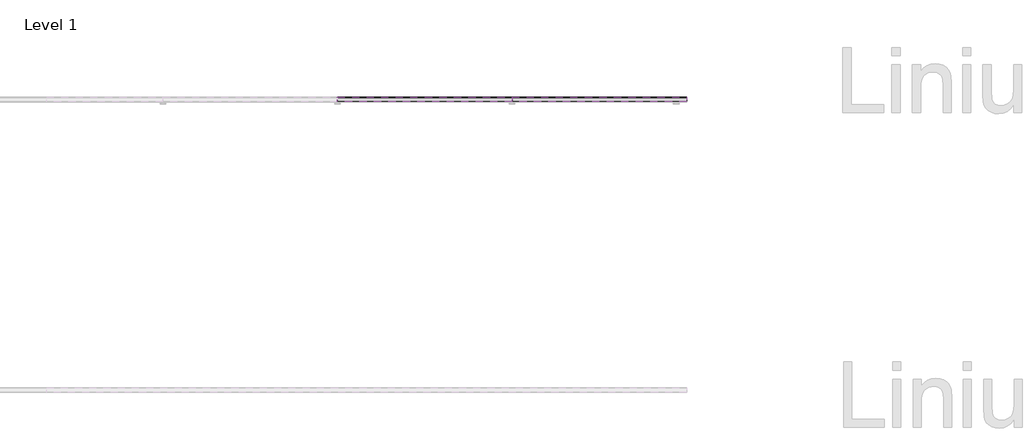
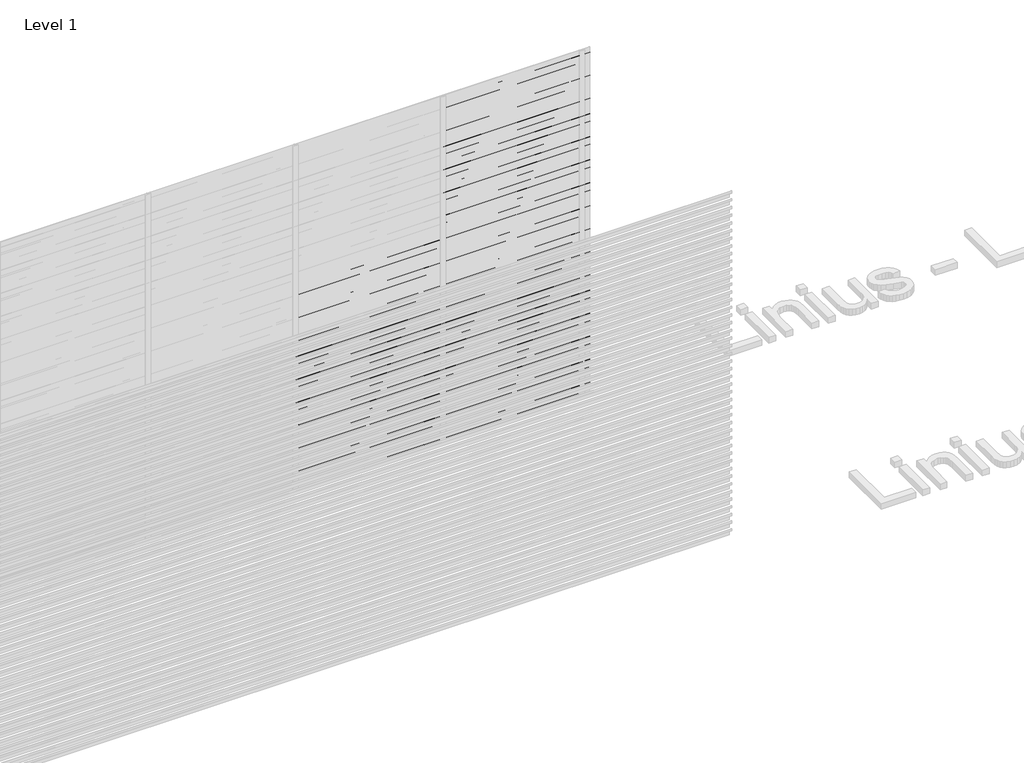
# One storey, part 101 of 540: 72 proxies.
"""IFC4 building model written with IfcOpenShell, lengths in millimetres."""

from ifc_helpers import new_model, si_unit, frame, origin, place, context, project, spatial, polyline, outline, extrude, element, save

model = new_model("IFC4")

# Units and contexts
model_context = context("Model", 3, world=origin())
ifc_project = project(units=[si_unit("LENGTHUNIT", "METRE", prefix="MILLI")], contexts=[model_context])

# Site, building, storey
site = spatial("IfcSite", under=ifc_project)
building = spatial("IfcBuilding", under=site)
storey = spatial("IfcBuildingStorey", under=building, Name="Level 1", Elevation=0.0)

# Proxies
placement = place(None, origin())
element("IfcBuildingElementProxy", 1, Name="Wall Sweeps", at=placement, inside=storey, context=model_context, shape_type="SweptSolid", body=[
    extrude(outline(polyline([(44014.0540136, 1742.0), (44014.0540136, 1709.0), (44012.8040136, 1709.7216933), (44012.8040136, 1741.2872415), (43983.0540136, 1762.0588647), (43983.0540136, 1782.0), (43984.3040136, 1782.0), (43984.3040136, 1762.7716232), (44014.0540136, 1742.0)])), frame((48566.6208097, 0.0, 0.0), z_axis=(1.0, 0.0, 0.0), x_axis=(0.0, 1.0, 0.0)), (0.0, 0.0, 1.0), 1200.0),
])
element("IfcBuildingElementProxy", 2, Name="Wall Sweeps", at=placement, inside=storey, context=model_context, shape_type="SweptSolid", body=[
    extrude(outline(polyline([(44014.0540136, 1676.0), (44014.0540136, 1643.0), (44012.8040136, 1643.7216933), (44012.8040136, 1675.2872415), (43983.0540136, 1696.0588647), (43983.0540136, 1716.0), (43984.3040136, 1716.0), (43984.3040136, 1696.7716232), (44014.0540136, 1676.0)])), frame((48566.6208097, 0.0, 0.0), z_axis=(1.0, 0.0, 0.0), x_axis=(0.0, 1.0, 0.0)), (0.0, 0.0, 1.0), 1200.0),
])
element("IfcBuildingElementProxy", 3, Name="Wall Sweeps", at=placement, inside=storey, context=model_context, shape_type="SweptSolid", body=[
    extrude(outline(polyline([(44014.0540136, 1610.0), (44014.0540136, 1577.0), (44012.8040136, 1577.7216933), (44012.8040136, 1609.2872415), (43983.0540136, 1630.0588647), (43983.0540136, 1650.0), (43984.3040136, 1650.0), (43984.3040136, 1630.7716232), (44014.0540136, 1610.0)])), frame((48566.6208097, 0.0, 0.0), z_axis=(1.0, 0.0, 0.0), x_axis=(0.0, 1.0, 0.0)), (0.0, 0.0, 1.0), 1200.0),
])
element("IfcBuildingElementProxy", 4, Name="Wall Sweeps", at=placement, inside=storey, context=model_context, shape_type="SweptSolid", body=[
    extrude(outline(polyline([(44014.0540136, 1544.0), (44014.0540136, 1511.0), (44012.8040136, 1511.7216933), (44012.8040136, 1543.2872415), (43983.0540136, 1564.0588647), (43983.0540136, 1584.0), (43984.3040136, 1584.0), (43984.3040136, 1564.7716232), (44014.0540136, 1544.0)])), frame((48566.6208097, 0.0, 0.0), z_axis=(1.0, 0.0, 0.0), x_axis=(0.0, 1.0, 0.0)), (0.0, 0.0, 1.0), 1200.0),
])
element("IfcBuildingElementProxy", 5, Name="Wall Sweeps", at=placement, inside=storey, context=model_context, shape_type="SweptSolid", body=[
    extrude(outline(polyline([(44014.0540136, 1478.0), (44014.0540136, 1445.0), (44012.8040136, 1445.7216933), (44012.8040136, 1477.2872415), (43983.0540136, 1498.0588647), (43983.0540136, 1518.0), (43984.3040136, 1518.0), (43984.3040136, 1498.7716232), (44014.0540136, 1478.0)])), frame((48566.6208097, 0.0, 0.0), z_axis=(1.0, 0.0, 0.0), x_axis=(0.0, 1.0, 0.0)), (0.0, 0.0, 1.0), 1200.0),
])
element("IfcBuildingElementProxy", 6, Name="Wall Sweeps", at=placement, inside=storey, context=model_context, shape_type="SweptSolid", body=[
    extrude(outline(polyline([(44014.0540136, 1412.0), (44014.0540136, 1379.0), (44012.8040136, 1379.7216933), (44012.8040136, 1411.2872415), (43983.0540136, 1432.0588647), (43983.0540136, 1452.0), (43984.3040136, 1452.0), (43984.3040136, 1432.7716232), (44014.0540136, 1412.0)])), frame((48566.6208097, 0.0, 0.0), z_axis=(1.0, 0.0, 0.0), x_axis=(0.0, 1.0, 0.0)), (0.0, 0.0, 1.0), 1200.0),
])
element("IfcBuildingElementProxy", 7, Name="Wall Sweeps", at=placement, inside=storey, context=model_context, shape_type="SweptSolid", body=[
    extrude(outline(polyline([(44014.0540136, 1346.0), (44014.0540136, 1313.0), (44012.8040136, 1313.7216933), (44012.8040136, 1345.2872415), (43983.0540136, 1366.0588647), (43983.0540136, 1386.0), (43984.3040136, 1386.0), (43984.3040136, 1366.7716232), (44014.0540136, 1346.0)])), frame((48566.6208097, 0.0, 0.0), z_axis=(1.0, 0.0, 0.0), x_axis=(0.0, 1.0, 0.0)), (0.0, 0.0, 1.0), 1200.0),
])
element("IfcBuildingElementProxy", 8, Name="Wall Sweeps", at=placement, inside=storey, context=model_context, shape_type="SweptSolid", body=[
    extrude(outline(polyline([(44014.0540136, 1280.0), (44014.0540136, 1247.0), (44012.8040136, 1247.7216933), (44012.8040136, 1279.2872415), (43983.0540136, 1300.0588647), (43983.0540136, 1320.0), (43984.3040136, 1320.0), (43984.3040136, 1300.7716232), (44014.0540136, 1280.0)])), frame((48566.6208097, 0.0, 0.0), z_axis=(1.0, 0.0, 0.0), x_axis=(0.0, 1.0, 0.0)), (0.0, 0.0, 1.0), 1200.0),
])
element("IfcBuildingElementProxy", 9, Name="Wall Sweeps", at=placement, inside=storey, context=model_context, shape_type="SweptSolid", body=[
    extrude(outline(polyline([(44014.0540136, 1214.0), (44014.0540136, 1181.0), (44012.8040136, 1181.7216933), (44012.8040136, 1213.2872415), (43983.0540136, 1234.0588647), (43983.0540136, 1254.0), (43984.3040136, 1254.0), (43984.3040136, 1234.7716232), (44014.0540136, 1214.0)])), frame((48566.6208097, 0.0, 0.0), z_axis=(1.0, 0.0, 0.0), x_axis=(0.0, 1.0, 0.0)), (0.0, 0.0, 1.0), 1200.0),
])
element("IfcBuildingElementProxy", 10, Name="Wall Sweeps", at=placement, inside=storey, context=model_context, shape_type="SweptSolid", body=[
    extrude(outline(polyline([(44014.0540136, 1148.0), (44014.0540136, 1115.0), (44012.8040136, 1115.7216933), (44012.8040136, 1147.2872415), (43983.0540136, 1168.0588647), (43983.0540136, 1188.0), (43984.3040136, 1188.0), (43984.3040136, 1168.7716232), (44014.0540136, 1148.0)])), frame((48566.6208097, 0.0, 0.0), z_axis=(1.0, 0.0, 0.0), x_axis=(0.0, 1.0, 0.0)), (0.0, 0.0, 1.0), 1200.0),
])
element("IfcBuildingElementProxy", 11, Name="Wall Sweeps", at=placement, inside=storey, context=model_context, shape_type="SweptSolid", body=[
    extrude(outline(polyline([(44014.0540136, 1082.0), (44014.0540136, 1049.0), (44012.8040136, 1049.7216933), (44012.8040136, 1081.2872415), (43983.0540136, 1102.0588647), (43983.0540136, 1122.0), (43984.3040136, 1122.0), (43984.3040136, 1102.7716232), (44014.0540136, 1082.0)])), frame((48566.6208097, 0.0, 0.0), z_axis=(1.0, 0.0, 0.0), x_axis=(0.0, 1.0, 0.0)), (0.0, 0.0, 1.0), 1200.0),
])
element("IfcBuildingElementProxy", 12, Name="Wall Sweeps", at=placement, inside=storey, context=model_context, shape_type="SweptSolid", body=[
    extrude(outline(polyline([(44014.0540136, 1016.0), (44014.0540136, 983.0), (44012.8040136, 983.7216933), (44012.8040136, 1015.2872415), (43983.0540136, 1036.0588647), (43983.0540136, 1056.0), (43984.3040136, 1056.0), (43984.3040136, 1036.7716232), (44014.0540136, 1016.0)])), frame((48566.6208097, 0.0, 0.0), z_axis=(1.0, 0.0, 0.0), x_axis=(0.0, 1.0, 0.0)), (0.0, 0.0, 1.0), 1200.0),
])
element("IfcBuildingElementProxy", 13, Name="Wall Sweeps", at=placement, inside=storey, context=model_context, shape_type="SweptSolid", body=[
    extrude(outline(polyline([(44014.0540136, 950.0), (44014.0540136, 917.0), (44012.8040136, 917.7216933), (44012.8040136, 949.2872415), (43983.0540136, 970.0588647), (43983.0540136, 990.0), (43984.3040136, 990.0), (43984.3040136, 970.7716232), (44014.0540136, 950.0)])), frame((48566.6208097, 0.0, 0.0), z_axis=(1.0, 0.0, 0.0), x_axis=(0.0, 1.0, 0.0)), (0.0, 0.0, 1.0), 1200.0),
])
element("IfcBuildingElementProxy", 14, Name="Wall Sweeps", at=placement, inside=storey, context=model_context, shape_type="SweptSolid", body=[
    extrude(outline(polyline([(44014.0540136, 884.0), (44014.0540136, 851.0), (44012.8040136, 851.7216933), (44012.8040136, 883.2872415), (43983.0540136, 904.0588647), (43983.0540136, 924.0), (43984.3040136, 924.0), (43984.3040136, 904.7716232), (44014.0540136, 884.0)])), frame((48566.6208097, 0.0, 0.0), z_axis=(1.0, 0.0, 0.0), x_axis=(0.0, 1.0, 0.0)), (0.0, 0.0, 1.0), 1200.0),
])
element("IfcBuildingElementProxy", 15, Name="Wall Sweeps", at=placement, inside=storey, context=model_context, shape_type="SweptSolid", body=[
    extrude(outline(polyline([(44014.0540136, 818.0), (44014.0540136, 785.0), (44012.8040136, 785.7216933), (44012.8040136, 817.2872415), (43983.0540136, 838.0588647), (43983.0540136, 858.0), (43984.3040136, 858.0), (43984.3040136, 838.7716232), (44014.0540136, 818.0)])), frame((48566.6208097, 0.0, 0.0), z_axis=(1.0, 0.0, 0.0), x_axis=(0.0, 1.0, 0.0)), (0.0, 0.0, 1.0), 1200.0),
])
element("IfcBuildingElementProxy", 16, Name="Wall Sweeps", at=placement, inside=storey, context=model_context, shape_type="SweptSolid", body=[
    extrude(outline(polyline([(44014.0540136, 752.0), (44014.0540136, 719.0), (44012.8040136, 719.7216933), (44012.8040136, 751.2872415), (43983.0540136, 772.0588647), (43983.0540136, 792.0), (43984.3040136, 792.0), (43984.3040136, 772.7716232), (44014.0540136, 752.0)])), frame((48566.6208097, 0.0, 0.0), z_axis=(1.0, 0.0, 0.0), x_axis=(0.0, 1.0, 0.0)), (0.0, 0.0, 1.0), 1200.0),
])
element("IfcBuildingElementProxy", 17, Name="Wall Sweeps", at=placement, inside=storey, context=model_context, shape_type="SweptSolid", body=[
    extrude(outline(polyline([(44014.0540136, 686.0), (44014.0540136, 653.0), (44012.8040136, 653.7216933), (44012.8040136, 685.2872415), (43983.0540136, 706.0588647), (43983.0540136, 726.0), (43984.3040136, 726.0), (43984.3040136, 706.7716232), (44014.0540136, 686.0)])), frame((48566.6208097, 0.0, 0.0), z_axis=(1.0, 0.0, 0.0), x_axis=(0.0, 1.0, 0.0)), (0.0, 0.0, 1.0), 1200.0),
])
element("IfcBuildingElementProxy", 18, Name="Wall Sweeps", at=placement, inside=storey, context=model_context, shape_type="SweptSolid", body=[
    extrude(outline(polyline([(44014.0540136, 620.0), (44014.0540136, 587.0), (44012.8040136, 587.7216933), (44012.8040136, 619.2872415), (43983.0540136, 640.0588647), (43983.0540136, 660.0), (43984.3040136, 660.0), (43984.3040136, 640.7716232), (44014.0540136, 620.0)])), frame((48566.6208097, 0.0, 0.0), z_axis=(1.0, 0.0, 0.0), x_axis=(0.0, 1.0, 0.0)), (0.0, 0.0, 1.0), 1200.0),
])
element("IfcBuildingElementProxy", 19, Name="Wall Sweeps", at=placement, inside=storey, context=model_context, shape_type="SweptSolid", body=[
    extrude(outline(polyline([(44014.0540136, 554.0), (44014.0540136, 521.0), (44012.8040136, 521.7216933), (44012.8040136, 553.2872415), (43983.0540136, 574.0588647), (43983.0540136, 594.0), (43984.3040136, 594.0), (43984.3040136, 574.7716232), (44014.0540136, 554.0)])), frame((48566.6208097, 0.0, 0.0), z_axis=(1.0, 0.0, 0.0), x_axis=(0.0, 1.0, 0.0)), (0.0, 0.0, 1.0), 1200.0),
])
element("IfcBuildingElementProxy", 20, Name="Wall Sweeps", at=placement, inside=storey, context=model_context, shape_type="SweptSolid", body=[
    extrude(outline(polyline([(44014.0540136, 488.0), (44014.0540136, 455.0), (44012.8040136, 455.7216933), (44012.8040136, 487.2872415), (43983.0540136, 508.0588647), (43983.0540136, 528.0), (43984.3040136, 528.0), (43984.3040136, 508.7716232), (44014.0540136, 488.0)])), frame((48566.6208097, 0.0, 0.0), z_axis=(1.0, 0.0, 0.0), x_axis=(0.0, 1.0, 0.0)), (0.0, 0.0, 1.0), 1200.0),
])
element("IfcBuildingElementProxy", 21, Name="Wall Sweeps", at=placement, inside=storey, context=model_context, shape_type="SweptSolid", body=[
    extrude(outline(polyline([(44014.0540136, 422.0), (44014.0540136, 389.0), (44012.8040136, 389.7216933), (44012.8040136, 421.2872415), (43983.0540136, 442.0588647), (43983.0540136, 462.0), (43984.3040136, 462.0), (43984.3040136, 442.7716232), (44014.0540136, 422.0)])), frame((48566.6208097, 0.0, 0.0), z_axis=(1.0, 0.0, 0.0), x_axis=(0.0, 1.0, 0.0)), (0.0, 0.0, 1.0), 1200.0),
])
element("IfcBuildingElementProxy", 22, Name="Wall Sweeps", at=placement, inside=storey, context=model_context, shape_type="SweptSolid", body=[
    extrude(outline(polyline([(44014.0540136, 356.0), (44014.0540136, 323.0), (44012.8040136, 323.7216933), (44012.8040136, 355.2872415), (43983.0540136, 376.0588647), (43983.0540136, 396.0), (43984.3040136, 396.0), (43984.3040136, 376.7716232), (44014.0540136, 356.0)])), frame((48566.6208097, 0.0, 0.0), z_axis=(1.0, 0.0, 0.0), x_axis=(0.0, 1.0, 0.0)), (0.0, 0.0, 1.0), 1200.0),
])
element("IfcBuildingElementProxy", 23, Name="Wall Sweeps", at=placement, inside=storey, context=model_context, shape_type="SweptSolid", body=[
    extrude(outline(polyline([(44014.0540136, 290.0), (44014.0540136, 257.0), (44012.8040136, 257.7216933), (44012.8040136, 289.2872415), (43983.0540136, 310.0588647), (43983.0540136, 330.0), (43984.3040136, 330.0), (43984.3040136, 310.7716232), (44014.0540136, 290.0)])), frame((48566.6208097, 0.0, 0.0), z_axis=(1.0, 0.0, 0.0), x_axis=(0.0, 1.0, 0.0)), (0.0, 0.0, 1.0), 1200.0),
])
element("IfcBuildingElementProxy", 24, Name="Wall Sweeps", at=placement, inside=storey, context=model_context, shape_type="SweptSolid", body=[
    extrude(outline(polyline([(44014.0540136, 224.0), (44014.0540136, 191.0), (44012.8040136, 191.7216933), (44012.8040136, 223.2872415), (43983.0540136, 244.0588647), (43983.0540136, 264.0), (43984.3040136, 264.0), (43984.3040136, 244.7716232), (44014.0540136, 224.0)])), frame((48566.6208097, 0.0, 0.0), z_axis=(1.0, 0.0, 0.0), x_axis=(0.0, 1.0, 0.0)), (0.0, 0.0, 1.0), 1200.0),
])
element("IfcBuildingElementProxy", 25, Name="Wall Sweeps", at=placement, inside=storey, context=model_context, shape_type="SweptSolid", body=[
    extrude(outline(polyline([(44014.0540136, 158.0), (44014.0540136, 125.0), (44012.8040136, 125.7216933), (44012.8040136, 157.2872415), (43983.0540136, 178.0588647), (43983.0540136, 198.0), (43984.3040136, 198.0), (43984.3040136, 178.7716232), (44014.0540136, 158.0)])), frame((48566.6208097, 0.0, 0.0), z_axis=(1.0, 0.0, 0.0), x_axis=(0.0, 1.0, 0.0)), (0.0, 0.0, 1.0), 1200.0),
])
element("IfcBuildingElementProxy", 26, Name="Wall Sweeps", at=placement, inside=storey, context=model_context, shape_type="SweptSolid", body=[
    extrude(outline(polyline([(44014.0540136, 92.0), (44014.0540136, 59.0), (44012.8040136, 59.7216933), (44012.8040136, 91.2872415), (43983.0540136, 112.0588647), (43983.0540136, 132.0), (43984.3040136, 132.0), (43984.3040136, 112.7716232), (44014.0540136, 92.0)])), frame((48566.6208097, 0.0, 0.0), z_axis=(1.0, 0.0, 0.0), x_axis=(0.0, 1.0, 0.0)), (0.0, 0.0, 1.0), 1200.0),
])
element("IfcBuildingElementProxy", 27, Name="Wall Sweeps", at=placement, inside=storey, context=model_context, shape_type="SweptSolid", body=[
    extrude(outline(polyline([(44014.0540136, 26.0), (44014.0540136, -7.0), (44012.8040136, -6.2783067), (44012.8040136, 25.2872415), (43983.0540136, 46.0588647), (43983.0540136, 66.0), (43984.3040136, 66.0), (43984.3040136, 46.7716232), (44014.0540136, 26.0)])), frame((48566.6208097, 0.0, 0.0), z_axis=(1.0, 0.0, 0.0), x_axis=(0.0, 1.0, 0.0)), (0.0, 0.0, 1.0), 1200.0),
])
element("IfcBuildingElementProxy", 28, Name="Wall Sweeps", at=placement, inside=storey, context=model_context, shape_type="SweptSolid", body=[
    extrude(outline(polyline([(44014.0540136, 2930.0), (44014.0540136, 2897.0), (44012.8040136, 2897.7216933), (44012.8040136, 2929.2872415), (43983.0540136, 2950.0588647), (43983.0540136, 2970.0), (43984.3040136, 2970.0), (43984.3040136, 2950.7716232), (44014.0540136, 2930.0)])), frame((49766.6208097, 0.0, 0.0), z_axis=(1.0, 0.0, 0.0), x_axis=(0.0, 1.0, 0.0)), (0.0, 0.0, 1.0), 1200.0),
])
element("IfcBuildingElementProxy", 29, Name="Wall Sweeps", at=placement, inside=storey, context=model_context, shape_type="SweptSolid", body=[
    extrude(outline(polyline([(44014.0540136, 2864.0), (44014.0540136, 2831.0), (44012.8040136, 2831.7216933), (44012.8040136, 2863.2872415), (43983.0540136, 2884.0588647), (43983.0540136, 2904.0), (43984.3040136, 2904.0), (43984.3040136, 2884.7716232), (44014.0540136, 2864.0)])), frame((49766.6208097, 0.0, 0.0), z_axis=(1.0, 0.0, 0.0), x_axis=(0.0, 1.0, 0.0)), (0.0, 0.0, 1.0), 1200.0),
])
element("IfcBuildingElementProxy", 30, Name="Wall Sweeps", at=placement, inside=storey, context=model_context, shape_type="SweptSolid", body=[
    extrude(outline(polyline([(44014.0540136, 2798.0), (44014.0540136, 2765.0), (44012.8040136, 2765.7216933), (44012.8040136, 2797.2872415), (43983.0540136, 2818.0588647), (43983.0540136, 2838.0), (43984.3040136, 2838.0), (43984.3040136, 2818.7716232), (44014.0540136, 2798.0)])), frame((49766.6208097, 0.0, 0.0), z_axis=(1.0, 0.0, 0.0), x_axis=(0.0, 1.0, 0.0)), (0.0, 0.0, 1.0), 1200.0),
])
element("IfcBuildingElementProxy", 31, Name="Wall Sweeps", at=placement, inside=storey, context=model_context, shape_type="SweptSolid", body=[
    extrude(outline(polyline([(44014.0540136, 2732.0), (44014.0540136, 2699.0), (44012.8040136, 2699.7216933), (44012.8040136, 2731.2872415), (43983.0540136, 2752.0588647), (43983.0540136, 2772.0), (43984.3040136, 2772.0), (43984.3040136, 2752.7716232), (44014.0540136, 2732.0)])), frame((49766.6208097, 0.0, 0.0), z_axis=(1.0, 0.0, 0.0), x_axis=(0.0, 1.0, 0.0)), (0.0, 0.0, 1.0), 1200.0),
])
element("IfcBuildingElementProxy", 32, Name="Wall Sweeps", at=placement, inside=storey, context=model_context, shape_type="SweptSolid", body=[
    extrude(outline(polyline([(44014.0540136, 2666.0), (44014.0540136, 2633.0), (44012.8040136, 2633.7216933), (44012.8040136, 2665.2872415), (43983.0540136, 2686.0588647), (43983.0540136, 2706.0), (43984.3040136, 2706.0), (43984.3040136, 2686.7716232), (44014.0540136, 2666.0)])), frame((49766.6208097, 0.0, 0.0), z_axis=(1.0, 0.0, 0.0), x_axis=(0.0, 1.0, 0.0)), (0.0, 0.0, 1.0), 1200.0),
])
element("IfcBuildingElementProxy", 33, Name="Wall Sweeps", at=placement, inside=storey, context=model_context, shape_type="SweptSolid", body=[
    extrude(outline(polyline([(44014.0540136, 2600.0), (44014.0540136, 2567.0), (44012.8040136, 2567.7216933), (44012.8040136, 2599.2872415), (43983.0540136, 2620.0588647), (43983.0540136, 2640.0), (43984.3040136, 2640.0), (43984.3040136, 2620.7716232), (44014.0540136, 2600.0)])), frame((49766.6208097, 0.0, 0.0), z_axis=(1.0, 0.0, 0.0), x_axis=(0.0, 1.0, 0.0)), (0.0, 0.0, 1.0), 1200.0),
])
element("IfcBuildingElementProxy", 34, Name="Wall Sweeps", at=placement, inside=storey, context=model_context, shape_type="SweptSolid", body=[
    extrude(outline(polyline([(44014.0540136, 2534.0), (44014.0540136, 2501.0), (44012.8040136, 2501.7216933), (44012.8040136, 2533.2872415), (43983.0540136, 2554.0588647), (43983.0540136, 2574.0), (43984.3040136, 2574.0), (43984.3040136, 2554.7716232), (44014.0540136, 2534.0)])), frame((49766.6208097, 0.0, 0.0), z_axis=(1.0, 0.0, 0.0), x_axis=(0.0, 1.0, 0.0)), (0.0, 0.0, 1.0), 1200.0),
])
element("IfcBuildingElementProxy", 35, Name="Wall Sweeps", at=placement, inside=storey, context=model_context, shape_type="SweptSolid", body=[
    extrude(outline(polyline([(44014.0540136, 2468.0), (44014.0540136, 2435.0), (44012.8040136, 2435.7216933), (44012.8040136, 2467.2872415), (43983.0540136, 2488.0588647), (43983.0540136, 2508.0), (43984.3040136, 2508.0), (43984.3040136, 2488.7716232), (44014.0540136, 2468.0)])), frame((49766.6208097, 0.0, 0.0), z_axis=(1.0, 0.0, 0.0), x_axis=(0.0, 1.0, 0.0)), (0.0, 0.0, 1.0), 1200.0),
])
element("IfcBuildingElementProxy", 36, Name="Wall Sweeps", at=placement, inside=storey, context=model_context, shape_type="SweptSolid", body=[
    extrude(outline(polyline([(44014.0540136, 2402.0), (44014.0540136, 2369.0), (44012.8040136, 2369.7216933), (44012.8040136, 2401.2872415), (43983.0540136, 2422.0588647), (43983.0540136, 2442.0), (43984.3040136, 2442.0), (43984.3040136, 2422.7716232), (44014.0540136, 2402.0)])), frame((49766.6208097, 0.0, 0.0), z_axis=(1.0, 0.0, 0.0), x_axis=(0.0, 1.0, 0.0)), (0.0, 0.0, 1.0), 1200.0),
])
element("IfcBuildingElementProxy", 37, Name="Wall Sweeps", at=placement, inside=storey, context=model_context, shape_type="SweptSolid", body=[
    extrude(outline(polyline([(44014.0540136, 2336.0), (44014.0540136, 2303.0), (44012.8040136, 2303.7216933), (44012.8040136, 2335.2872415), (43983.0540136, 2356.0588647), (43983.0540136, 2376.0), (43984.3040136, 2376.0), (43984.3040136, 2356.7716232), (44014.0540136, 2336.0)])), frame((49766.6208097, 0.0, 0.0), z_axis=(1.0, 0.0, 0.0), x_axis=(0.0, 1.0, 0.0)), (0.0, 0.0, 1.0), 1200.0),
])
element("IfcBuildingElementProxy", 38, Name="Wall Sweeps", at=placement, inside=storey, context=model_context, shape_type="SweptSolid", body=[
    extrude(outline(polyline([(44014.0540136, 2270.0), (44014.0540136, 2237.0), (44012.8040136, 2237.7216933), (44012.8040136, 2269.2872415), (43983.0540136, 2290.0588647), (43983.0540136, 2310.0), (43984.3040136, 2310.0), (43984.3040136, 2290.7716232), (44014.0540136, 2270.0)])), frame((49766.6208097, 0.0, 0.0), z_axis=(1.0, 0.0, 0.0), x_axis=(0.0, 1.0, 0.0)), (0.0, 0.0, 1.0), 1200.0),
])
element("IfcBuildingElementProxy", 39, Name="Wall Sweeps", at=placement, inside=storey, context=model_context, shape_type="SweptSolid", body=[
    extrude(outline(polyline([(44014.0540136, 2204.0), (44014.0540136, 2171.0), (44012.8040136, 2171.7216933), (44012.8040136, 2203.2872415), (43983.0540136, 2224.0588647), (43983.0540136, 2244.0), (43984.3040136, 2244.0), (43984.3040136, 2224.7716232), (44014.0540136, 2204.0)])), frame((49766.6208097, 0.0, 0.0), z_axis=(1.0, 0.0, 0.0), x_axis=(0.0, 1.0, 0.0)), (0.0, 0.0, 1.0), 1200.0),
])
element("IfcBuildingElementProxy", 40, Name="Wall Sweeps", at=placement, inside=storey, context=model_context, shape_type="SweptSolid", body=[
    extrude(outline(polyline([(44014.0540136, 2138.0), (44014.0540136, 2105.0), (44012.8040136, 2105.7216933), (44012.8040136, 2137.2872415), (43983.0540136, 2158.0588647), (43983.0540136, 2178.0), (43984.3040136, 2178.0), (43984.3040136, 2158.7716232), (44014.0540136, 2138.0)])), frame((49766.6208097, 0.0, 0.0), z_axis=(1.0, 0.0, 0.0), x_axis=(0.0, 1.0, 0.0)), (0.0, 0.0, 1.0), 1200.0),
])
element("IfcBuildingElementProxy", 41, Name="Wall Sweeps", at=placement, inside=storey, context=model_context, shape_type="SweptSolid", body=[
    extrude(outline(polyline([(44014.0540136, 2072.0), (44014.0540136, 2039.0), (44012.8040136, 2039.7216933), (44012.8040136, 2071.2872415), (43983.0540136, 2092.0588647), (43983.0540136, 2112.0), (43984.3040136, 2112.0), (43984.3040136, 2092.7716232), (44014.0540136, 2072.0)])), frame((49766.6208097, 0.0, 0.0), z_axis=(1.0, 0.0, 0.0), x_axis=(0.0, 1.0, 0.0)), (0.0, 0.0, 1.0), 1200.0),
])
element("IfcBuildingElementProxy", 42, Name="Wall Sweeps", at=placement, inside=storey, context=model_context, shape_type="SweptSolid", body=[
    extrude(outline(polyline([(44014.0540136, 2006.0), (44014.0540136, 1973.0), (44012.8040136, 1973.7216933), (44012.8040136, 2005.2872415), (43983.0540136, 2026.0588647), (43983.0540136, 2046.0), (43984.3040136, 2046.0), (43984.3040136, 2026.7716232), (44014.0540136, 2006.0)])), frame((49766.6208097, 0.0, 0.0), z_axis=(1.0, 0.0, 0.0), x_axis=(0.0, 1.0, 0.0)), (0.0, 0.0, 1.0), 1200.0),
])
element("IfcBuildingElementProxy", 43, Name="Wall Sweeps", at=placement, inside=storey, context=model_context, shape_type="SweptSolid", body=[
    extrude(outline(polyline([(44014.0540136, 1940.0), (44014.0540136, 1907.0), (44012.8040136, 1907.7216933), (44012.8040136, 1939.2872415), (43983.0540136, 1960.0588647), (43983.0540136, 1980.0), (43984.3040136, 1980.0), (43984.3040136, 1960.7716232), (44014.0540136, 1940.0)])), frame((49766.6208097, 0.0, 0.0), z_axis=(1.0, 0.0, 0.0), x_axis=(0.0, 1.0, 0.0)), (0.0, 0.0, 1.0), 1200.0),
])
element("IfcBuildingElementProxy", 44, Name="Wall Sweeps", at=placement, inside=storey, context=model_context, shape_type="SweptSolid", body=[
    extrude(outline(polyline([(44014.0540136, 1874.0), (44014.0540136, 1841.0), (44012.8040136, 1841.7216933), (44012.8040136, 1873.2872415), (43983.0540136, 1894.0588647), (43983.0540136, 1914.0), (43984.3040136, 1914.0), (43984.3040136, 1894.7716232), (44014.0540136, 1874.0)])), frame((49766.6208097, 0.0, 0.0), z_axis=(1.0, 0.0, 0.0), x_axis=(0.0, 1.0, 0.0)), (0.0, 0.0, 1.0), 1200.0),
])
element("IfcBuildingElementProxy", 45, Name="Wall Sweeps", at=placement, inside=storey, context=model_context, shape_type="SweptSolid", body=[
    extrude(outline(polyline([(44014.0540136, 1808.0), (44014.0540136, 1775.0), (44012.8040136, 1775.7216933), (44012.8040136, 1807.2872415), (43983.0540136, 1828.0588647), (43983.0540136, 1848.0), (43984.3040136, 1848.0), (43984.3040136, 1828.7716232), (44014.0540136, 1808.0)])), frame((49766.6208097, 0.0, 0.0), z_axis=(1.0, 0.0, 0.0), x_axis=(0.0, 1.0, 0.0)), (0.0, 0.0, 1.0), 1200.0),
])
element("IfcBuildingElementProxy", 46, Name="Wall Sweeps", at=placement, inside=storey, context=model_context, shape_type="SweptSolid", body=[
    extrude(outline(polyline([(44014.0540136, 1742.0), (44014.0540136, 1709.0), (44012.8040136, 1709.7216933), (44012.8040136, 1741.2872415), (43983.0540136, 1762.0588647), (43983.0540136, 1782.0), (43984.3040136, 1782.0), (43984.3040136, 1762.7716232), (44014.0540136, 1742.0)])), frame((49766.6208097, 0.0, 0.0), z_axis=(1.0, 0.0, 0.0), x_axis=(0.0, 1.0, 0.0)), (0.0, 0.0, 1.0), 1200.0),
])
element("IfcBuildingElementProxy", 47, Name="Wall Sweeps", at=placement, inside=storey, context=model_context, shape_type="SweptSolid", body=[
    extrude(outline(polyline([(44014.0540136, 1676.0), (44014.0540136, 1643.0), (44012.8040136, 1643.7216933), (44012.8040136, 1675.2872415), (43983.0540136, 1696.0588647), (43983.0540136, 1716.0), (43984.3040136, 1716.0), (43984.3040136, 1696.7716232), (44014.0540136, 1676.0)])), frame((49766.6208097, 0.0, 0.0), z_axis=(1.0, 0.0, 0.0), x_axis=(0.0, 1.0, 0.0)), (0.0, 0.0, 1.0), 1200.0),
])
element("IfcBuildingElementProxy", 48, Name="Wall Sweeps", at=placement, inside=storey, context=model_context, shape_type="SweptSolid", body=[
    extrude(outline(polyline([(44014.0540136, 1610.0), (44014.0540136, 1577.0), (44012.8040136, 1577.7216933), (44012.8040136, 1609.2872415), (43983.0540136, 1630.0588647), (43983.0540136, 1650.0), (43984.3040136, 1650.0), (43984.3040136, 1630.7716232), (44014.0540136, 1610.0)])), frame((49766.6208097, 0.0, 0.0), z_axis=(1.0, 0.0, 0.0), x_axis=(0.0, 1.0, 0.0)), (0.0, 0.0, 1.0), 1200.0),
])
element("IfcBuildingElementProxy", 49, Name="Wall Sweeps", at=placement, inside=storey, context=model_context, shape_type="SweptSolid", body=[
    extrude(outline(polyline([(44014.0540136, 1544.0), (44014.0540136, 1511.0), (44012.8040136, 1511.7216933), (44012.8040136, 1543.2872415), (43983.0540136, 1564.0588647), (43983.0540136, 1584.0), (43984.3040136, 1584.0), (43984.3040136, 1564.7716232), (44014.0540136, 1544.0)])), frame((49766.6208097, 0.0, 0.0), z_axis=(1.0, 0.0, 0.0), x_axis=(0.0, 1.0, 0.0)), (0.0, 0.0, 1.0), 1200.0),
])
element("IfcBuildingElementProxy", 50, Name="Wall Sweeps", at=placement, inside=storey, context=model_context, shape_type="SweptSolid", body=[
    extrude(outline(polyline([(44014.0540136, 1478.0), (44014.0540136, 1445.0), (44012.8040136, 1445.7216933), (44012.8040136, 1477.2872415), (43983.0540136, 1498.0588647), (43983.0540136, 1518.0), (43984.3040136, 1518.0), (43984.3040136, 1498.7716232), (44014.0540136, 1478.0)])), frame((49766.6208097, 0.0, 0.0), z_axis=(1.0, 0.0, 0.0), x_axis=(0.0, 1.0, 0.0)), (0.0, 0.0, 1.0), 1200.0),
])
element("IfcBuildingElementProxy", 51, Name="Wall Sweeps", at=placement, inside=storey, context=model_context, shape_type="SweptSolid", body=[
    extrude(outline(polyline([(44014.0540136, 1412.0), (44014.0540136, 1379.0), (44012.8040136, 1379.7216933), (44012.8040136, 1411.2872415), (43983.0540136, 1432.0588647), (43983.0540136, 1452.0), (43984.3040136, 1452.0), (43984.3040136, 1432.7716232), (44014.0540136, 1412.0)])), frame((49766.6208097, 0.0, 0.0), z_axis=(1.0, 0.0, 0.0), x_axis=(0.0, 1.0, 0.0)), (0.0, 0.0, 1.0), 1200.0),
])
element("IfcBuildingElementProxy", 52, Name="Wall Sweeps", at=placement, inside=storey, context=model_context, shape_type="SweptSolid", body=[
    extrude(outline(polyline([(44014.0540136, 1346.0), (44014.0540136, 1313.0), (44012.8040136, 1313.7216933), (44012.8040136, 1345.2872415), (43983.0540136, 1366.0588647), (43983.0540136, 1386.0), (43984.3040136, 1386.0), (43984.3040136, 1366.7716232), (44014.0540136, 1346.0)])), frame((49766.6208097, 0.0, 0.0), z_axis=(1.0, 0.0, 0.0), x_axis=(0.0, 1.0, 0.0)), (0.0, 0.0, 1.0), 1200.0),
])
element("IfcBuildingElementProxy", 53, Name="Wall Sweeps", at=placement, inside=storey, context=model_context, shape_type="SweptSolid", body=[
    extrude(outline(polyline([(44014.0540136, 1280.0), (44014.0540136, 1247.0), (44012.8040136, 1247.7216933), (44012.8040136, 1279.2872415), (43983.0540136, 1300.0588647), (43983.0540136, 1320.0), (43984.3040136, 1320.0), (43984.3040136, 1300.7716232), (44014.0540136, 1280.0)])), frame((49766.6208097, 0.0, 0.0), z_axis=(1.0, 0.0, 0.0), x_axis=(0.0, 1.0, 0.0)), (0.0, 0.0, 1.0), 1200.0),
])
element("IfcBuildingElementProxy", 54, Name="Wall Sweeps", at=placement, inside=storey, context=model_context, shape_type="SweptSolid", body=[
    extrude(outline(polyline([(44014.0540136, 1214.0), (44014.0540136, 1181.0), (44012.8040136, 1181.7216933), (44012.8040136, 1213.2872415), (43983.0540136, 1234.0588647), (43983.0540136, 1254.0), (43984.3040136, 1254.0), (43984.3040136, 1234.7716232), (44014.0540136, 1214.0)])), frame((49766.6208097, 0.0, 0.0), z_axis=(1.0, 0.0, 0.0), x_axis=(0.0, 1.0, 0.0)), (0.0, 0.0, 1.0), 1200.0),
])
element("IfcBuildingElementProxy", 55, Name="Wall Sweeps", at=placement, inside=storey, context=model_context, shape_type="SweptSolid", body=[
    extrude(outline(polyline([(44014.0540136, 1148.0), (44014.0540136, 1115.0), (44012.8040136, 1115.7216933), (44012.8040136, 1147.2872415), (43983.0540136, 1168.0588647), (43983.0540136, 1188.0), (43984.3040136, 1188.0), (43984.3040136, 1168.7716232), (44014.0540136, 1148.0)])), frame((49766.6208097, 0.0, 0.0), z_axis=(1.0, 0.0, 0.0), x_axis=(0.0, 1.0, 0.0)), (0.0, 0.0, 1.0), 1200.0),
])
element("IfcBuildingElementProxy", 56, Name="Wall Sweeps", at=placement, inside=storey, context=model_context, shape_type="SweptSolid", body=[
    extrude(outline(polyline([(44014.0540136, 1082.0), (44014.0540136, 1049.0), (44012.8040136, 1049.7216933), (44012.8040136, 1081.2872415), (43983.0540136, 1102.0588647), (43983.0540136, 1122.0), (43984.3040136, 1122.0), (43984.3040136, 1102.7716232), (44014.0540136, 1082.0)])), frame((49766.6208097, 0.0, 0.0), z_axis=(1.0, 0.0, 0.0), x_axis=(0.0, 1.0, 0.0)), (0.0, 0.0, 1.0), 1200.0),
])
element("IfcBuildingElementProxy", 57, Name="Wall Sweeps", at=placement, inside=storey, context=model_context, shape_type="SweptSolid", body=[
    extrude(outline(polyline([(44014.0540136, 1016.0), (44014.0540136, 983.0), (44012.8040136, 983.7216933), (44012.8040136, 1015.2872415), (43983.0540136, 1036.0588647), (43983.0540136, 1056.0), (43984.3040136, 1056.0), (43984.3040136, 1036.7716232), (44014.0540136, 1016.0)])), frame((49766.6208097, 0.0, 0.0), z_axis=(1.0, 0.0, 0.0), x_axis=(0.0, 1.0, 0.0)), (0.0, 0.0, 1.0), 1200.0),
])
element("IfcBuildingElementProxy", 58, Name="Wall Sweeps", at=placement, inside=storey, context=model_context, shape_type="SweptSolid", body=[
    extrude(outline(polyline([(44014.0540136, 950.0), (44014.0540136, 917.0), (44012.8040136, 917.7216933), (44012.8040136, 949.2872415), (43983.0540136, 970.0588647), (43983.0540136, 990.0), (43984.3040136, 990.0), (43984.3040136, 970.7716232), (44014.0540136, 950.0)])), frame((49766.6208097, 0.0, 0.0), z_axis=(1.0, 0.0, 0.0), x_axis=(0.0, 1.0, 0.0)), (0.0, 0.0, 1.0), 1200.0),
])
element("IfcBuildingElementProxy", 59, Name="Wall Sweeps", at=placement, inside=storey, context=model_context, shape_type="SweptSolid", body=[
    extrude(outline(polyline([(44014.0540136, 884.0), (44014.0540136, 851.0), (44012.8040136, 851.7216933), (44012.8040136, 883.2872415), (43983.0540136, 904.0588647), (43983.0540136, 924.0), (43984.3040136, 924.0), (43984.3040136, 904.7716232), (44014.0540136, 884.0)])), frame((49766.6208097, 0.0, 0.0), z_axis=(1.0, 0.0, 0.0), x_axis=(0.0, 1.0, 0.0)), (0.0, 0.0, 1.0), 1200.0),
])
element("IfcBuildingElementProxy", 60, Name="Wall Sweeps", at=placement, inside=storey, context=model_context, shape_type="SweptSolid", body=[
    extrude(outline(polyline([(44014.0540136, 818.0), (44014.0540136, 785.0), (44012.8040136, 785.7216933), (44012.8040136, 817.2872415), (43983.0540136, 838.0588647), (43983.0540136, 858.0), (43984.3040136, 858.0), (43984.3040136, 838.7716232), (44014.0540136, 818.0)])), frame((49766.6208097, 0.0, 0.0), z_axis=(1.0, 0.0, 0.0), x_axis=(0.0, 1.0, 0.0)), (0.0, 0.0, 1.0), 1200.0),
])
element("IfcBuildingElementProxy", 61, Name="Wall Sweeps", at=placement, inside=storey, context=model_context, shape_type="SweptSolid", body=[
    extrude(outline(polyline([(44014.0540136, 752.0), (44014.0540136, 719.0), (44012.8040136, 719.7216933), (44012.8040136, 751.2872415), (43983.0540136, 772.0588647), (43983.0540136, 792.0), (43984.3040136, 792.0), (43984.3040136, 772.7716232), (44014.0540136, 752.0)])), frame((49766.6208097, 0.0, 0.0), z_axis=(1.0, 0.0, 0.0), x_axis=(0.0, 1.0, 0.0)), (0.0, 0.0, 1.0), 1200.0),
])
element("IfcBuildingElementProxy", 62, Name="Wall Sweeps", at=placement, inside=storey, context=model_context, shape_type="SweptSolid", body=[
    extrude(outline(polyline([(44014.0540136, 686.0), (44014.0540136, 653.0), (44012.8040136, 653.7216933), (44012.8040136, 685.2872415), (43983.0540136, 706.0588647), (43983.0540136, 726.0), (43984.3040136, 726.0), (43984.3040136, 706.7716232), (44014.0540136, 686.0)])), frame((49766.6208097, 0.0, 0.0), z_axis=(1.0, 0.0, 0.0), x_axis=(0.0, 1.0, 0.0)), (0.0, 0.0, 1.0), 1200.0),
])
element("IfcBuildingElementProxy", 63, Name="Wall Sweeps", at=placement, inside=storey, context=model_context, shape_type="SweptSolid", body=[
    extrude(outline(polyline([(44014.0540136, 620.0), (44014.0540136, 587.0), (44012.8040136, 587.7216933), (44012.8040136, 619.2872415), (43983.0540136, 640.0588647), (43983.0540136, 660.0), (43984.3040136, 660.0), (43984.3040136, 640.7716232), (44014.0540136, 620.0)])), frame((49766.6208097, 0.0, 0.0), z_axis=(1.0, 0.0, 0.0), x_axis=(0.0, 1.0, 0.0)), (0.0, 0.0, 1.0), 1200.0),
])
element("IfcBuildingElementProxy", 64, Name="Wall Sweeps", at=placement, inside=storey, context=model_context, shape_type="SweptSolid", body=[
    extrude(outline(polyline([(44014.0540136, 554.0), (44014.0540136, 521.0), (44012.8040136, 521.7216933), (44012.8040136, 553.2872415), (43983.0540136, 574.0588647), (43983.0540136, 594.0), (43984.3040136, 594.0), (43984.3040136, 574.7716232), (44014.0540136, 554.0)])), frame((49766.6208097, 0.0, 0.0), z_axis=(1.0, 0.0, 0.0), x_axis=(0.0, 1.0, 0.0)), (0.0, 0.0, 1.0), 1200.0),
])
element("IfcBuildingElementProxy", 65, Name="Wall Sweeps", at=placement, inside=storey, context=model_context, shape_type="SweptSolid", body=[
    extrude(outline(polyline([(44014.0540136, 488.0), (44014.0540136, 455.0), (44012.8040136, 455.7216933), (44012.8040136, 487.2872415), (43983.0540136, 508.0588647), (43983.0540136, 528.0), (43984.3040136, 528.0), (43984.3040136, 508.7716232), (44014.0540136, 488.0)])), frame((49766.6208097, 0.0, 0.0), z_axis=(1.0, 0.0, 0.0), x_axis=(0.0, 1.0, 0.0)), (0.0, 0.0, 1.0), 1200.0),
])
element("IfcBuildingElementProxy", 66, Name="Wall Sweeps", at=placement, inside=storey, context=model_context, shape_type="SweptSolid", body=[
    extrude(outline(polyline([(44014.0540136, 422.0), (44014.0540136, 389.0), (44012.8040136, 389.7216933), (44012.8040136, 421.2872415), (43983.0540136, 442.0588647), (43983.0540136, 462.0), (43984.3040136, 462.0), (43984.3040136, 442.7716232), (44014.0540136, 422.0)])), frame((49766.6208097, 0.0, 0.0), z_axis=(1.0, 0.0, 0.0), x_axis=(0.0, 1.0, 0.0)), (0.0, 0.0, 1.0), 1200.0),
])
element("IfcBuildingElementProxy", 67, Name="Wall Sweeps", at=placement, inside=storey, context=model_context, shape_type="SweptSolid", body=[
    extrude(outline(polyline([(44014.0540136, 356.0), (44014.0540136, 323.0), (44012.8040136, 323.7216933), (44012.8040136, 355.2872415), (43983.0540136, 376.0588647), (43983.0540136, 396.0), (43984.3040136, 396.0), (43984.3040136, 376.7716232), (44014.0540136, 356.0)])), frame((49766.6208097, 0.0, 0.0), z_axis=(1.0, 0.0, 0.0), x_axis=(0.0, 1.0, 0.0)), (0.0, 0.0, 1.0), 1200.0),
])
element("IfcBuildingElementProxy", 68, Name="Wall Sweeps", at=placement, inside=storey, context=model_context, shape_type="SweptSolid", body=[
    extrude(outline(polyline([(44014.0540136, 290.0), (44014.0540136, 257.0), (44012.8040136, 257.7216933), (44012.8040136, 289.2872415), (43983.0540136, 310.0588647), (43983.0540136, 330.0), (43984.3040136, 330.0), (43984.3040136, 310.7716232), (44014.0540136, 290.0)])), frame((49766.6208097, 0.0, 0.0), z_axis=(1.0, 0.0, 0.0), x_axis=(0.0, 1.0, 0.0)), (0.0, 0.0, 1.0), 1200.0),
])
element("IfcBuildingElementProxy", 69, Name="Wall Sweeps", at=placement, inside=storey, context=model_context, shape_type="SweptSolid", body=[
    extrude(outline(polyline([(44014.0540136, 224.0), (44014.0540136, 191.0), (44012.8040136, 191.7216933), (44012.8040136, 223.2872415), (43983.0540136, 244.0588647), (43983.0540136, 264.0), (43984.3040136, 264.0), (43984.3040136, 244.7716232), (44014.0540136, 224.0)])), frame((49766.6208097, 0.0, 0.0), z_axis=(1.0, 0.0, 0.0), x_axis=(0.0, 1.0, 0.0)), (0.0, 0.0, 1.0), 1200.0),
])
element("IfcBuildingElementProxy", 70, Name="Wall Sweeps", at=placement, inside=storey, context=model_context, shape_type="SweptSolid", body=[
    extrude(outline(polyline([(44014.0540136, 158.0), (44014.0540136, 125.0), (44012.8040136, 125.7216933), (44012.8040136, 157.2872415), (43983.0540136, 178.0588647), (43983.0540136, 198.0), (43984.3040136, 198.0), (43984.3040136, 178.7716232), (44014.0540136, 158.0)])), frame((49766.6208097, 0.0, 0.0), z_axis=(1.0, 0.0, 0.0), x_axis=(0.0, 1.0, 0.0)), (0.0, 0.0, 1.0), 1200.0),
])
element("IfcBuildingElementProxy", 71, Name="Wall Sweeps", at=placement, inside=storey, context=model_context, shape_type="SweptSolid", body=[
    extrude(outline(polyline([(44014.0540136, 92.0), (44014.0540136, 59.0), (44012.8040136, 59.7216933), (44012.8040136, 91.2872415), (43983.0540136, 112.0588647), (43983.0540136, 132.0), (43984.3040136, 132.0), (43984.3040136, 112.7716232), (44014.0540136, 92.0)])), frame((49766.6208097, 0.0, 0.0), z_axis=(1.0, 0.0, 0.0), x_axis=(0.0, 1.0, 0.0)), (0.0, 0.0, 1.0), 1200.0),
])
element("IfcBuildingElementProxy", 72, Name="Wall Sweeps", at=placement, inside=storey, context=model_context, shape_type="SweptSolid", body=[
    extrude(outline(polyline([(44014.0540136, 26.0), (44014.0540136, -7.0), (44012.8040136, -6.2783067), (44012.8040136, 25.2872415), (43983.0540136, 46.0588647), (43983.0540136, 66.0), (43984.3040136, 66.0), (43984.3040136, 46.7716232), (44014.0540136, 26.0)])), frame((49766.6208097, 0.0, 0.0), z_axis=(1.0, 0.0, 0.0), x_axis=(0.0, 1.0, 0.0)), (0.0, 0.0, 1.0), 1200.0),
])

save(model, "model.ifc")
